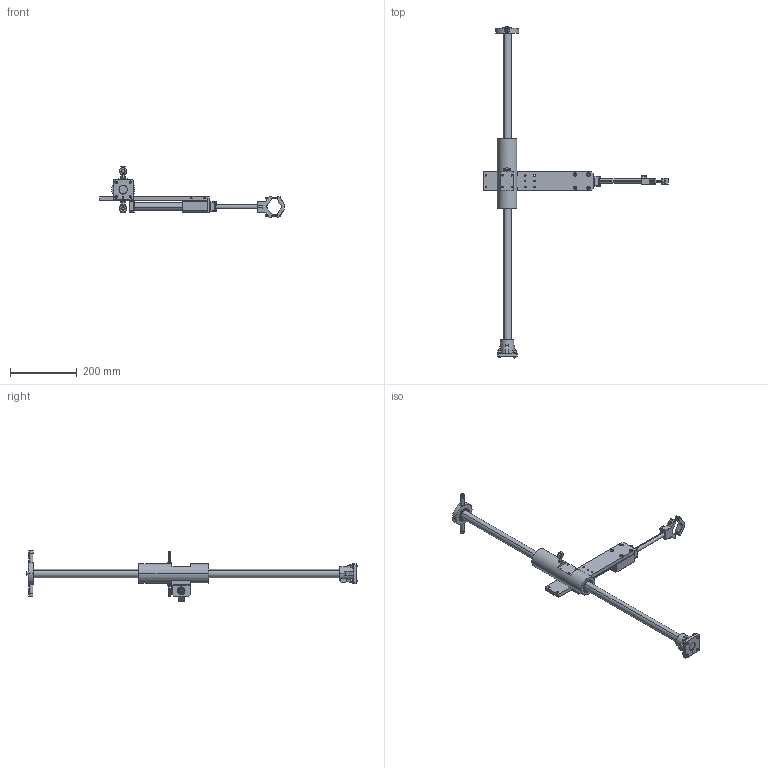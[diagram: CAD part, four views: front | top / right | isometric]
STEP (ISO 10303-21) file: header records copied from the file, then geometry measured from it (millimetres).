
FILE_DESCRIPTION (( 'STEP AP214' ), '1' );
FILE_NAME ('040.0103.000.STEP', '2017-02-09T18:03:45', ( 'sogea' ), ( 'Hewlett-Packard Company' ), 'SwSTEP 2.0', 'SolidWorks 2016', '' );
FILE_SCHEMA (( 'AUTOMOTIVE_DESIGN' ));
Length unit declared in the file: millimetre
Products named in the file (1): 040.0103.000
Bounding box: 555.25 x 996.4 x 151.75 mm (x, y, z)
Surface area: 281042.9 mm2 (no closed solid volume)
Topology: 0 solids, 167 shells, 1006 faces, 2825 edges, 1871 vertices
Faces by surface type: cone 370, plane 328, cylinder 218, torus 74, bspline 16
Entity records: 44873 total; most frequent: CARTESIAN_POINT 7585, DIRECTION 6007, ORIENTED_EDGE 4539, EDGE_CURVE 2815, AXIS2_PLACEMENT_3D 2309, VERTEX_POINT 1871, LINE 1389, VECTOR 1389
